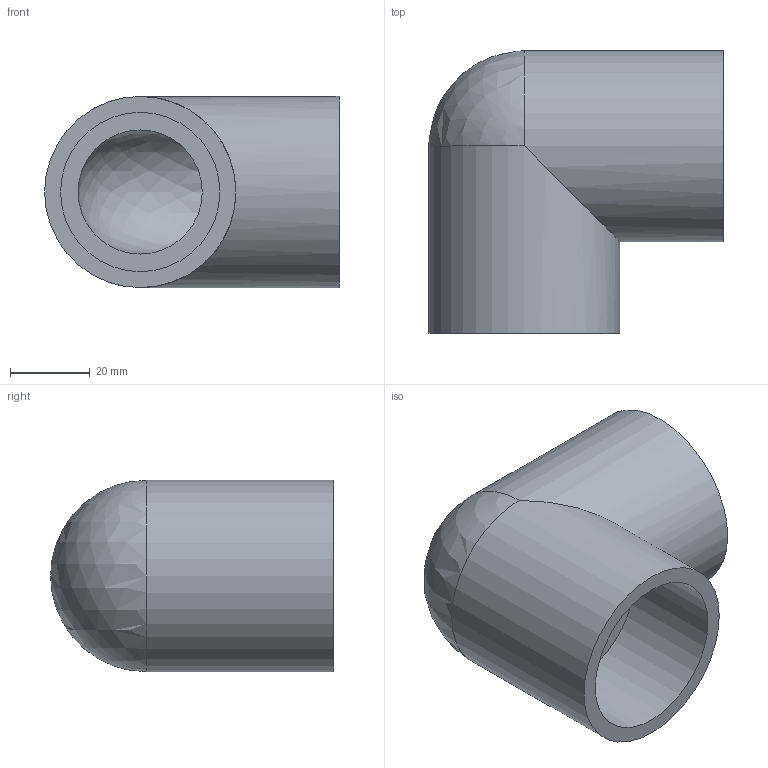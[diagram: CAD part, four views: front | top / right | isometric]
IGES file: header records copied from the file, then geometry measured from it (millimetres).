
Global section: file name: 050502040013.ipt; native system: Autodesk Inventor 2015; preprocessor: unknown; author: KIM; date: 20171207.164710; units: millimetre
Bounding box: 74 x 71 x 48 mm (x, y, z)
Volume: 81687.6 mm3; surface area: 26164.7 mm2
Topology: 1 solids, 1 shells, 12 faces, 26 edges, 16 vertices
Faces by surface type: revolution 5, plane 4, cylinder 2, sphere 1
Full cylindrical faces by diameter (mm): 48 x2
